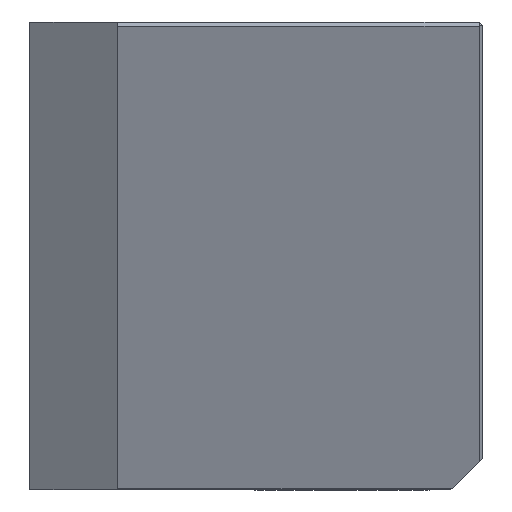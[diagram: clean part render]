
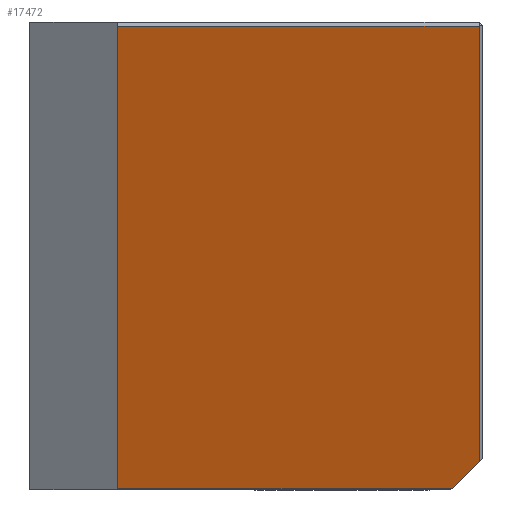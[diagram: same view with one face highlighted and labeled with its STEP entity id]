
A CAD part, left-side view. The second image highlights one B-rep face of the part: STEP entity #17472.
In plain terms, the highlighted planar face has unit normal (-0.943, 0, -0.334).
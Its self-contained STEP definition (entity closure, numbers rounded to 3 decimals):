
#6085=DIRECTION('',(-0.334,0.,0.942));
#6086=VECTOR('',#6085,31.448);
#6087=CARTESIAN_POINT('',(10.872,23.375,-29.906));
#6088=LINE('',#6087,#6086);
#6089=DIRECTION('',(0.,-1.,0.));
#6090=VECTOR('',#6089,23.175);
#6091=CARTESIAN_POINT('',(0.36,23.375,-0.267));
#6092=LINE('',#6091,#6090);
#6093=DIRECTION('',(0.334,0.,-0.942));
#6094=VECTOR('',#6093,29.638);
#6095=CARTESIAN_POINT('',(0.36,0.2,-0.267));
#6096=LINE('',#6095,#6094);
#6097=DIRECTION('',(-0.243,-0.686,0.686));
#6098=VECTOR('',#6097,2.487);
#6099=CARTESIAN_POINT('',(10.872,1.906,-29.906));
#6100=LINE('',#6099,#6098);
#6101=DIRECTION('',(0.,-1.,0.));
#6102=VECTOR('',#6101,21.469);
#6103=CARTESIAN_POINT('',(10.872,23.375,-29.906));
#6104=LINE('',#6103,#6102);
#8833=CARTESIAN_POINT('',(10.872,23.375,-29.906));
#8834=CARTESIAN_POINT('',(0.36,23.375,-0.267));
#8835=VERTEX_POINT('',#8833);
#8836=VERTEX_POINT('',#8834);
#8848=CARTESIAN_POINT('',(10.267,0.2,-28.2));
#8850=VERTEX_POINT('',#8848);
#8851=CARTESIAN_POINT('',(0.36,0.2,-0.267));
#8852=VERTEX_POINT('',#8851);
#8857=CARTESIAN_POINT('',(10.872,1.906,-29.906));
#8859=VERTEX_POINT('',#8857);
#17460=CARTESIAN_POINT('',(10.905,0.,-30.));
#17461=DIRECTION('',(-0.942,0.,-0.334));
#17462=DIRECTION('',(-0.334,0.,0.942));
#17463=AXIS2_PLACEMENT_3D('',#17460,#17461,#17462);
#17464=PLANE('',#17463);
#17465=ORIENTED_EDGE('',*,*,#17295,.T.);
#17466=ORIENTED_EDGE('',*,*,#17313,.T.);
#17467=ORIENTED_EDGE('',*,*,#17337,.T.);
#17468=ORIENTED_EDGE('',*,*,#17354,.F.);
#17469=ORIENTED_EDGE('',*,*,#17453,.F.);
#17470=EDGE_LOOP('',(#17465,#17466,#17467,#17468,#17469));
#17471=FACE_OUTER_BOUND('',#17470,.F.);
#17472=ADVANCED_FACE('',(#17471),#17464,.T.);
#17295=EDGE_CURVE('',#8835,#8836,#6088,.T.);
#17313=EDGE_CURVE('',#8836,#8852,#6092,.T.);
#17337=EDGE_CURVE('',#8852,#8850,#6096,.T.);
#17354=EDGE_CURVE('',#8859,#8850,#6100,.T.);
#17453=EDGE_CURVE('',#8835,#8859,#6104,.T.);
